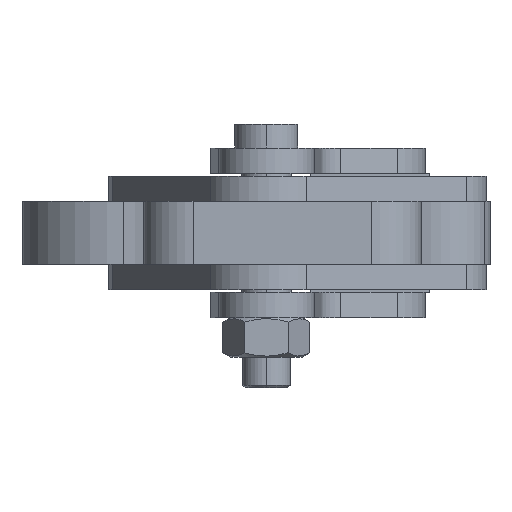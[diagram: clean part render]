
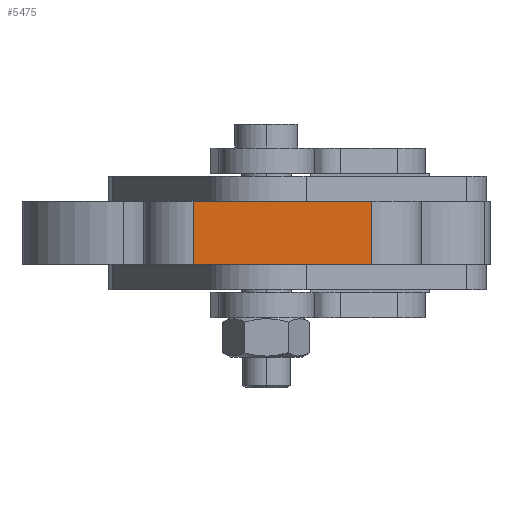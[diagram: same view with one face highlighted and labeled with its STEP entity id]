
A CAD part, front view. The second image highlights one B-rep face of the part: STEP entity #5475.
In plain terms, the highlighted planar face has unit normal (0, -1, 0).
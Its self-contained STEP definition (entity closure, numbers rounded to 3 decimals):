
#49 = CARTESIAN_POINT ( 'NONE',  ( 22.5, 0., 0. ) ) ;
#858 = CARTESIAN_POINT ( 'NONE',  ( 22.5, 0., -15.875 ) ) ;
#865 = LINE ( 'NONE', #858, #1147 ) ;
#870 = DIRECTION ( 'NONE',  ( 0., 0., 1. ) ) ;
#874 = CARTESIAN_POINT ( 'NONE',  ( -22.5, 0., -15.875 ) ) ;
#878 = LINE ( 'NONE', #874, #1155 ) ;
#882 = DIRECTION ( 'NONE',  ( 0., 0., 1. ) ) ;
#953 = CARTESIAN_POINT ( 'NONE',  ( 22.5, 0., -15.875 ) ) ;
#961 = FACE_OUTER_BOUND ( 'NONE', #2622, .T. ) ;
#966 = PLANE ( 'NONE',  #1199 ) ;
#967 = DIRECTION ( 'NONE',  ( 0., -1., 0. ) ) ;
#968 = DIRECTION ( 'NONE',  ( 0., 0., -1. ) ) ;
#1147 = VECTOR ( 'NONE', #870, 1000. ) ;
#1155 = VECTOR ( 'NONE', #882, 1000. ) ;
#1199 = AXIS2_PLACEMENT_3D ( 'NONE', #953, #967, #968 ) ;
#1267 = VECTOR ( 'NONE', #3050, 1000. ) ;
#1298 = VECTOR ( 'NONE', #3048, 1000. ) ;
#1533 = VERTEX_POINT ( 'NONE', #2036 ) ;
#1714 = ORIENTED_EDGE ( 'NONE', *, *, #5615, .F. ) ;
#1715 = ORIENTED_EDGE ( 'NONE', *, *, #5447, .F. ) ;
#1716 = ORIENTED_EDGE ( 'NONE', *, *, #5616, .T. ) ;
#1717 = ORIENTED_EDGE ( 'NONE', *, *, #5443, .T. ) ;
#2036 = CARTESIAN_POINT ( 'NONE',  ( 22.5, 0., -15.875 ) ) ;
#2131 = CARTESIAN_POINT ( 'NONE',  ( -22.5, 0., -15.875 ) ) ;
#2161 = CARTESIAN_POINT ( 'NONE',  ( -22.5, 0., 0. ) ) ;
#2219 = VERTEX_POINT ( 'NONE', #2131 ) ;
#2249 = VERTEX_POINT ( 'NONE', #2161 ) ;
#2622 = EDGE_LOOP ( 'NONE', ( #1714, #1715, #1716, #1717 ) ) ;
#3039 = LINE ( 'NONE', #3049, #1267 ) ;
#3046 = LINE ( 'NONE', #3047, #1298 ) ;
#3047 = CARTESIAN_POINT ( 'NONE',  ( 22.5, 0., 0. ) ) ;
#3048 = DIRECTION ( 'NONE',  ( 1., 0., 0. ) ) ;
#3049 = CARTESIAN_POINT ( 'NONE',  ( 22.5, 0., -15.875 ) ) ;
#3050 = DIRECTION ( 'NONE',  ( 1., 0., 0. ) ) ;
#4021 = VERTEX_POINT ( 'NONE', #49 ) ;
#5443 = EDGE_CURVE ( 'NONE', #1533, #4021, #865, .T. ) ;
#5447 = EDGE_CURVE ( 'NONE', #2219, #2249, #878, .T. ) ;
#5475 = ADVANCED_FACE ( 'NONE', ( #961 ), #966, .T. ) ;
#5615 = EDGE_CURVE ( 'NONE', #2249, #4021, #3046, .T. ) ;
#5616 = EDGE_CURVE ( 'NONE', #2219, #1533, #3039, .T. ) ;
